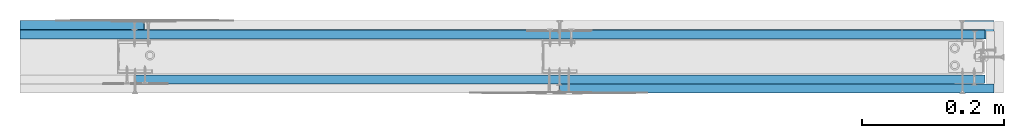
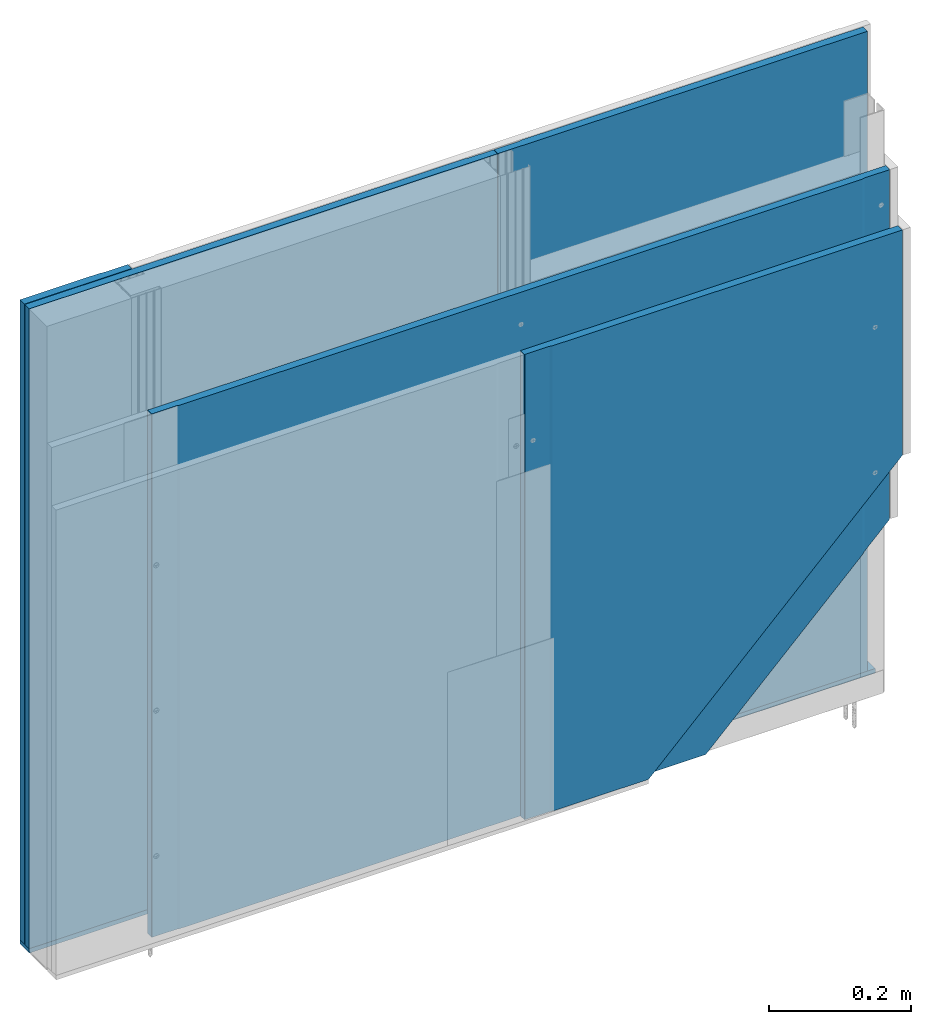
# One storey, part 2 of 52: 6 walls.
"""IFC2X3 building model written with IfcOpenShell, lengths in millimetres."""

from ifc_helpers import new_model, entity, si_unit, converted_unit, direction, frame, origin, origin_with_axes, place, context, project, spatial, faceted_brep, element, save


model = new_model("IFC2X3")

# Units and contexts
model_context = context("Model", 3, precision=1e-05, world=origin(), true_north=direction((0.0, 1.0, 0.0)))
ifc_project = project(units=[si_unit("LENGTHUNIT", "METRE", prefix="MILLI"), si_unit("AREAUNIT", "SQUARE_METRE"), si_unit("VOLUMEUNIT", "CUBIC_METRE"), converted_unit("PLANEANGLEUNIT", "DEGREE", entity("IfcPlaneAngleMeasure", 0.01745), si_unit("PLANEANGLEUNIT", "RADIAN"), dimensions=[0, 0, 0, 0, 0, 0, 0]), si_unit("SOLIDANGLEUNIT", "STERADIAN"), si_unit("MASSUNIT", "GRAM"), si_unit("TIMEUNIT", "SECOND"), si_unit("THERMODYNAMICTEMPERATUREUNIT", "DEGREE_CELSIUS"), si_unit("LUMINOUSINTENSITYUNIT", "LUMEN")], contexts=[model_context])

# Site, building, storey
site_placement = place(None, origin_with_axes())
site = spatial("IfcSite", under=ifc_project, at=site_placement, Name="Default Site", CompositionType="ELEMENT")
building_placement = place(site_placement, origin_with_axes())
building = spatial("IfcBuilding", under=site, at=building_placement, Name="Default Building", CompositionType="ELEMENT")
storey_placement = place(building_placement, origin_with_axes())
storey = spatial("IfcBuildingStorey", under=building, at=storey_placement, Name="Default Building Storey", CompositionType="ELEMENT", Elevation=0.0)

# Walls
wall_1_placement = place(storey_placement, frame((2887.242430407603, 1958.680077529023, -190.0015816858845), z_axis=(0.0, 0.0, -1.0), x_axis=(1.0, 0.0, 0.0)))
element("IfcWall", 1, at=wall_1_placement, inside=storey, Name="Płyta gipsowo-kartonowa RIGIPS PRO (4PRO™)", context=model_context, shape_type="Brep", body=[
    faceted_brep([(613.6872183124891, 12.49999999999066, -662.499999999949), (201.1872183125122, 12.49999999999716, -249.9999999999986), (201.1872183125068, 8.66293703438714e-12, -250.000000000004), (613.6872183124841, 2.165734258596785e-12, -662.4999999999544), (613.687218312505, -1.624300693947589e-11, -1050.001581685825), (613.6872183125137, 12.49999999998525, -1050.001581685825), (44.99999999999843, 12.50000000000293, -249.9999999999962), (44.99999999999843, 12.50000000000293, -1050.001581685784), (0.0, 0.0, -249.9999999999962), (40.99999999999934, 11.50000000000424, -249.9999999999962), (0.9999999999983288, 11.5000000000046, -249.9999999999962), (0.7411809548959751, 11.46592582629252, -249.9999999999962), (0.4999999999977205, 11.3660254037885, -249.9999999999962), (0.29289321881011, 11.20710678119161, -249.9999999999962), (0.1339745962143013, 11.00000000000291, -249.9999999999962), (0.03407417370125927, 10.7588190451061, -249.9999999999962), (-3.97051280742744e-12, 10.50000000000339, -249.9999999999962), (40.99999999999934, 11.50000000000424, -1050.001581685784), (0.9999999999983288, 11.5000000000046, -1050.001581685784), (0.7411809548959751, 11.46592582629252, -1050.001581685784), (0.4999999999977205, 11.3660254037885, -1050.001581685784), (0.29289321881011, 11.20710678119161, -1050.001581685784), (0.1339745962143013, 11.00000000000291, -1050.001581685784), (0.03407417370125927, 10.7588190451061, -1050.001581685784), (-3.97051280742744e-12, 10.50000000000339, -1050.001581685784), (0.0, 0.0, -1050.001581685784)], [[[0, 1, 2, 3]], [[0, 3, 4, 5]], [[6, 1, 0, 5, 7]], [[8, 2, 1, 6, 9, 10, 11, 12, 13, 14, 15, 16]], [[9, 6, 7, 17]], [[10, 9, 17, 18]], [[11, 10, 18, 19]], [[12, 11, 19, 20]], [[13, 12, 20, 21]], [[14, 13, 21, 22]], [[15, 14, 22, 23]], [[16, 15, 23, 24]], [[8, 16, 24, 25]], [[25, 4, 3, 2, 8]], [[7, 5, 4, 25, 24, 23, 22, 21, 20, 19, 18, 17]]]),
])
wall_2_placement = place(storey_placement, frame((3683.040618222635, 2023.494753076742, 52.38402578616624), z_axis=(0.0, 0.0, 1.0), x_axis=(1.0, 0.0, 0.0)))
element("IfcWall", 2, at=wall_2_placement, inside=storey, Name="Dedykowana masa szpachlowa Rigips - konstrukcyjna", context=model_context, shape_type="Brep", body=[
    faceted_brep([(-182.110969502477, 24.6461696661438, 0.0), (-182.110969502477, -1.353830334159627, 0.0), (-1557.828266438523, -1.353830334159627, 0.0), (-1557.828266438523, 24.6461696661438, 0.0), (-182.110969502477, -1.353830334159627, 7.614392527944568), (-1557.828266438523, -1.353830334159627, 7.614392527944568), (-182.110969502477, 24.6461696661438, 7.614392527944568), (-1557.828266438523, 24.6461696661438, 7.614392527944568)], [[[0, 1, 2, 3]], [[1, 4, 5, 2]], [[4, 6, 7, 5]], [[6, 0, 3, 7]], [[7, 3, 2, 5]], [[0, 6, 4, 1]]]),
])
wall_3_placement = place(storey_placement, frame((2299.929648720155, 2035.640922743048, 1337.777728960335), z_axis=(0.0, 0.0, 1.0), x_axis=(-1.0, 0.0, 0.0)))
element("IfcWall", 3, at=wall_3_placement, inside=storey, Name="Płyta gipsowo-kartonowa RIGIPS PRO (4PRO™)", context=model_context, shape_type="Brep", body=[
    faceted_brep([(174.7172969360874, -12.49999999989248, -177.7777289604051), (174.7172969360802, 1.090086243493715e-10, -177.7777289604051), (174.7172969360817, 1.086476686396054e-10, -1277.779310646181), (174.7172969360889, -12.49999999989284, -1277.779310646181), (0.0, 0.0, -177.7777289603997), (44.99999999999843, -12.50000000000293, -177.7777289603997), (40.99999999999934, -11.50000000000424, -177.7777289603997), (0.9999999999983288, -11.5000000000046, -177.7777289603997), (0.7411809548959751, -11.46592582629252, -177.7777289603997), (0.4999999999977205, -11.3660254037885, -177.7777289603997), (0.2928932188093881, -11.20710678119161, -177.7777289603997), (0.1339745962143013, -11.00000000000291, -177.7777289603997), (0.03407417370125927, -10.7588190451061, -177.7777289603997), (-2.887645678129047e-12, -10.50000000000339, -177.7777289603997), (44.99999999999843, -12.50000000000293, -1277.779310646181), (40.99999999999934, -11.50000000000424, -1277.779310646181), (0.9999999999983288, -11.5000000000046, -1277.779310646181), (0.7411809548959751, -11.46592582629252, -1277.779310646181), (0.4999999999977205, -11.3660254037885, -1277.779310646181), (0.2928932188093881, -11.20710678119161, -1277.779310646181), (0.1339745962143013, -11.00000000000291, -1277.779310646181), (0.03407417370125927, -10.7588190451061, -1277.779310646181), (-2.887645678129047e-12, -10.50000000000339, -1277.779310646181), (0.0, 0.0, -1277.779310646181)], [[[0, 1, 2, 3]], [[4, 1, 0, 5, 6, 7, 8, 9, 10, 11, 12, 13]], [[0, 3, 14, 5]], [[6, 5, 14, 15]], [[7, 6, 15, 16]], [[8, 7, 16, 17]], [[9, 8, 17, 18]], [[10, 9, 18, 19]], [[11, 10, 19, 20]], [[12, 11, 20, 21]], [[13, 12, 21, 22]], [[4, 13, 22, 23]], [[23, 2, 1, 4]], [[14, 3, 2, 23, 22, 21, 20, 19, 18, 17, 16, 15]]]),
])
wall_4_placement = place(storey_placement, frame((2288.4296487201, 1971.180077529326, 1209.999999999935), z_axis=(0.0, 0.0, 1.0), x_axis=(1.0, 0.0, 0.0)))
element("IfcWall", 4, at=wall_4_placement, inside=storey, Name="Płyta gipsowo-kartonowa RIGIPS PRO (4PRO™)", context=model_context, shape_type="Brep", body=[
    faceted_brep([(900.0000000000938, 0.0, -1150.001581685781), (900.0000000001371, -12.50000000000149, -1150.001581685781), (1155.000000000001, -12.50000000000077, -895.6182685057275), (1159.0, -11.50000000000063, -891.6279420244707), (1199.0, -11.50000000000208, -851.7246772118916), (1199.258819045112, -11.46592582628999, -851.4664840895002), (1199.50000000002, -11.3660254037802, -851.2258864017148), (1199.707106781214, -11.20710678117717, -851.019280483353), (1199.866025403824, -10.99999999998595, -850.8607461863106), (1199.965925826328, -10.75881904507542, -850.7610873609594), (1200.000000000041, -10.49999999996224, -850.727095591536), (1200.0, 0.0, -850.7270955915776), (1199.258819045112, -11.46592582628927, -249.9999999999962), (1199.50000000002, -11.36602540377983, -249.9999999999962), (44.99999999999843, -12.50000000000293, -1150.001581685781), (44.99999999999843, -12.50000000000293, -249.9999999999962), (1155.000000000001, -12.49999999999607, -249.9999999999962), (40.99999999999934, -11.50000000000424, -249.9999999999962), (40.99999999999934, -11.50000000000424, -1150.001581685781), (0.1339745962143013, -11.00000000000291, -249.9999999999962), (0.29289321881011, -11.20710678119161, -249.9999999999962), (0.29289321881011, -11.20710678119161, -1150.001581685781), (0.1339745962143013, -11.00000000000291, -1150.001581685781), (0.03407417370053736, -10.7588190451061, -249.9999999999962), (0.03407417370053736, -10.7588190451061, -1150.001581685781), (-2.887645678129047e-12, -10.50000000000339, -249.9999999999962), (-2.887645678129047e-12, -10.50000000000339, -1150.001581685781), (0.4999999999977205, -11.3660254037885, -249.9999999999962), (0.4999999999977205, -11.3660254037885, -1150.001581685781), (1199.0, -11.50000000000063, -249.9999999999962), (1158.999999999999, -11.50000000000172, -249.9999999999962), (0.7411809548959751, -11.46592582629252, -249.9999999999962), (0.7411809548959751, -11.46592582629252, -1150.001581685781), (0.0, 0.0, -249.9999999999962), (0.0, 0.0, -1150.001581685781), (1199.965925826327, -10.75881904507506, -249.9999999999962), (1200.000000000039, -10.49999999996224, -249.9999999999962), (0.9999999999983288, -11.5000000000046, -1150.001581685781), (0.9999999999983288, -11.5000000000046, -249.9999999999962), (1200.0, 0.0, -249.9999999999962), (1199.866025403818, -10.99999999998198, -249.9999999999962), (1199.707106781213, -11.20710678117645, -249.9999999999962)], [[[0, 1, 2, 3, 4, 5, 6, 7, 8, 9, 10, 11]], [[5, 12, 13, 6]], [[1, 14, 15, 16, 2]], [[17, 15, 14, 18]], [[19, 20, 21, 22]], [[23, 19, 22, 24]], [[25, 23, 24, 26]], [[20, 27, 28, 21]], [[4, 29, 12, 5]], [[3, 30, 29, 4]], [[2, 16, 30, 3]], [[27, 31, 32, 28]], [[33, 25, 26, 34]], [[9, 35, 36, 10]], [[0, 34, 26, 24, 22, 21, 28, 32, 37, 18, 14, 1]], [[30, 16, 15, 17, 38, 31, 27, 20, 19, 23, 25, 33, 39, 36, 35, 40, 41, 13, 12, 29]], [[31, 38, 37, 32]], [[38, 17, 18, 37]], [[7, 41, 40, 8]], [[11, 39, 33, 34, 0]], [[10, 36, 39, 11]], [[8, 40, 35, 9]], [[6, 13, 41, 7]]]),
])
wall_5_placement = place(storey_placement, frame((2886.429648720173, 2022.14092274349, 1109.999999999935), z_axis=(0.0, 0.0, 1.0), x_axis=(-1.0, 0.0, 0.0)))
element("IfcWall", 5, at=wall_5_placement, inside=storey, Name="Płyta gipsowo-kartonowa RIGIPS PRO (4PRO™)", context=model_context, shape_type="Brep", body=[
    faceted_brep([(761.2172969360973, -12.49999999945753, 49.99999999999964), (761.2172969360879, 5.147228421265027e-10, 49.99999999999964), (761.217296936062, 5.111132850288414e-10, -1050.001581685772), (761.2172969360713, -12.49999999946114, -1050.001581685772), (44.99999999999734, -12.50000000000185, 50.00000000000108), (40.99999999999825, -11.50000000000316, 50.00000000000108), (0.9999999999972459, -11.50000000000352, 50.00000000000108), (0.7411809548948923, -11.46592582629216, 50.00000000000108), (0.4999999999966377, -11.36602540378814, 50.00000000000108), (0.2928932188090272, -11.20710678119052, 50.00000000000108), (0.1339745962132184, -11.00000000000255, 50.00000000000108), (0.0340741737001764, -10.75881904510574, 50.00000000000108), (-3.248601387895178e-12, -10.50000000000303, 50.00000000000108), (-1.082867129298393e-12, 3.609557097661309e-13, 50.00000000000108), (44.99999999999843, -12.50000000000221, -1050.001581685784), (40.99999999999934, -11.50000000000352, -1050.001581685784), (0.9999999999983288, -11.50000000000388, -1050.001581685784), (0.7411809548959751, -11.46592582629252, -1050.001581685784), (0.4999999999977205, -11.3660254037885, -1050.001581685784), (0.29289321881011, -11.20710678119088, -1050.001581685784), (0.1339745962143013, -11.00000000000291, -1050.001581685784), (0.03407417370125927, -10.7588190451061, -1050.001581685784), (-2.165734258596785e-12, -10.50000000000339, -1050.001581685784), (0.0, 0.0, -1050.001581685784)], [[[0, 1, 2, 3]], [[0, 4, 5, 6, 7, 8, 9, 10, 11, 12, 13, 1]], [[3, 14, 4, 0]], [[5, 4, 14, 15]], [[6, 5, 15, 16]], [[7, 6, 16, 17]], [[8, 7, 17, 18]], [[9, 8, 18, 19]], [[10, 9, 19, 20]], [[11, 10, 20, 21]], [[12, 11, 21, 22]], [[13, 12, 22, 23]], [[2, 1, 13, 23]], [[14, 3, 2, 23, 22, 21, 20, 19, 18, 17, 16, 15]]]),
])
wall_6_placement = place(storey_placement, frame((2887.429648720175, 2022.140922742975, 1109.999999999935), z_axis=(0.0, 0.0, 1.0), x_axis=(1.0, 0.0, 0.0)))
element("IfcWall", 6, at=wall_6_placement, inside=storey, Name="Płyta gipsowo-kartonowa RIGIPS PRO (4PRO™)", context=model_context, shape_type="Brep", body=[
    faceted_brep([(600.9999999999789, 12.49999999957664, 50.00000000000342), (600.9999999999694, -3.956074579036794e-10, 50.00000000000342), (600.9999999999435, -3.919979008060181e-10, -1050.001581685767), (600.9999999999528, 12.49999999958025, -1050.001581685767), (44.99999999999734, 12.50000000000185, 50.00000000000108), (40.99999999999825, 11.50000000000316, 50.00000000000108), (0.9999999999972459, 11.50000000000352, 50.00000000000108), (0.7411809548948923, 11.46592582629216, 50.00000000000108), (0.4999999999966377, 11.36602540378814, 50.00000000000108), (0.2928932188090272, 11.20710678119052, 50.00000000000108), (0.1339745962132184, 11.00000000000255, 50.00000000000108), (0.0340741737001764, 10.75881904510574, 50.00000000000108), (-3.248601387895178e-12, 10.50000000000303, 50.00000000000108), (-1.082867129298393e-12, -3.609557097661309e-13, 50.00000000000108), (44.99999999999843, 12.50000000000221, -1050.001581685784), (40.99999999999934, 11.50000000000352, -1050.001581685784), (0.9999999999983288, 11.50000000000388, -1050.001581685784), (0.7411809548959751, 11.46592582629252, -1050.001581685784), (0.4999999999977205, 11.3660254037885, -1050.001581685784), (0.29289321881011, 11.20710678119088, -1050.001581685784), (0.1339745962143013, 11.00000000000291, -1050.001581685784), (0.03407417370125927, 10.7588190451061, -1050.001581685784), (-2.165734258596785e-12, 10.50000000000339, -1050.001581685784), (0.0, 0.0, -1050.001581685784)], [[[0, 1, 2, 3]], [[0, 4, 5, 6, 7, 8, 9, 10, 11, 12, 13, 1]], [[3, 14, 4, 0]], [[5, 4, 14, 15]], [[6, 5, 15, 16]], [[7, 6, 16, 17]], [[8, 7, 17, 18]], [[9, 8, 18, 19]], [[10, 9, 19, 20]], [[11, 10, 20, 21]], [[12, 11, 21, 22]], [[13, 12, 22, 23]], [[2, 1, 13, 23]], [[14, 3, 2, 23, 22, 21, 20, 19, 18, 17, 16, 15]]]),
])

save(model, "model.ifc")
